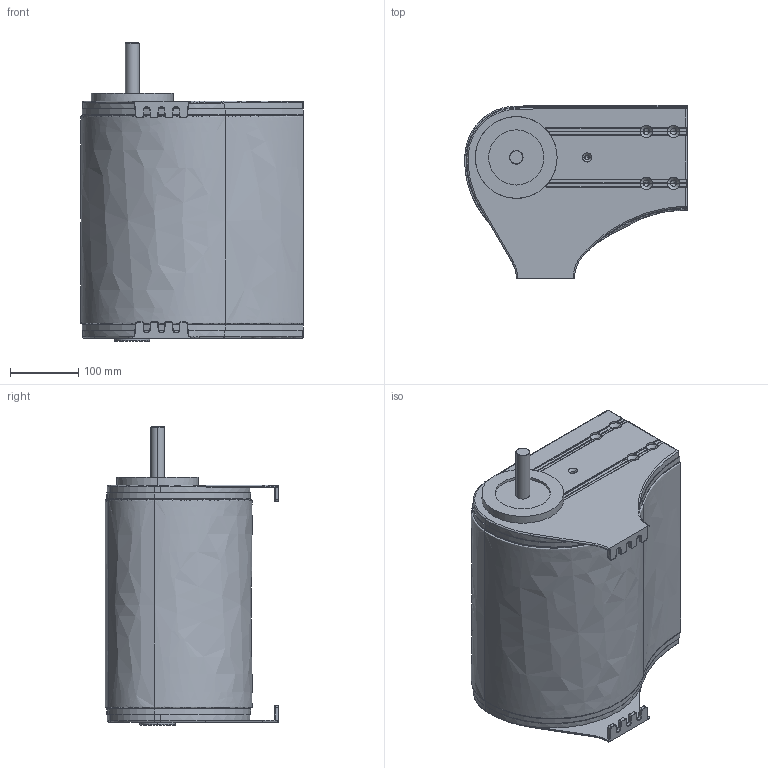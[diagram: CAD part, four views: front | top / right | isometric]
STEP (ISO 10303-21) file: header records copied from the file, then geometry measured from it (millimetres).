
FILE_DESCRIPTION (( 'STEP AP214' ), '1' );
FILE_NAME ('F2 1200 MDG20.step', '2017-04-05T06:47:32', ( '' ), ( '' ), 'SwSTEP 2.0', 'SolidWorks 2015', '' );
FILE_SCHEMA (( 'AUTOMOTIVE_DESIGN' ));
Length unit declared in the file: millimetre
Products named in the file (1): F2 1200 MDG20
Bounding box: 326.6 x 254.22 x 438.55 mm (x, y, z)
Volume: 20524010.4 mm3; surface area: 489084.5 mm2
Topology: 1 solids, 1 shells, 580 faces, 1484 edges, 887 vertices
Faces by surface type: cylinder 249, plane 152, torus 113, cone 42, bspline 24
Entity records: 20026 total; most frequent: CARTESIAN_POINT 5541, DIRECTION 2992, ORIENTED_EDGE 2920, EDGE_CURVE 1460, AXIS2_PLACEMENT_3D 1191, VERTEX_POINT 887, CIRCLE 634, VECTOR 610
